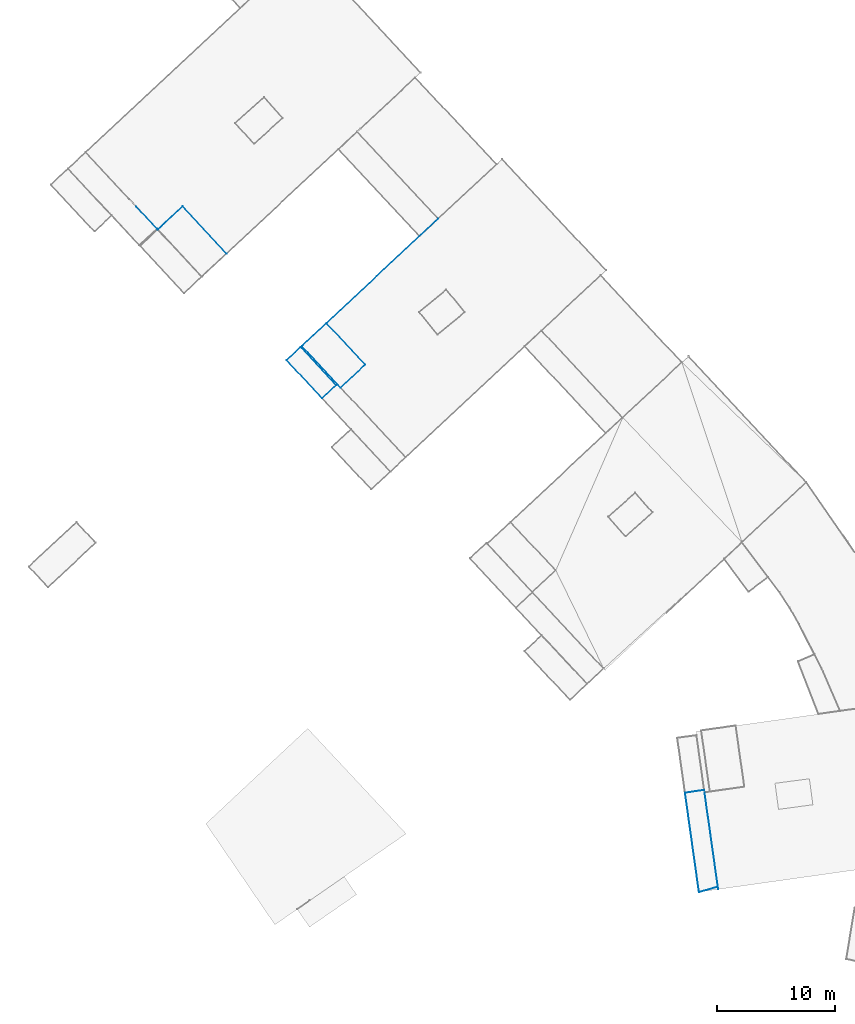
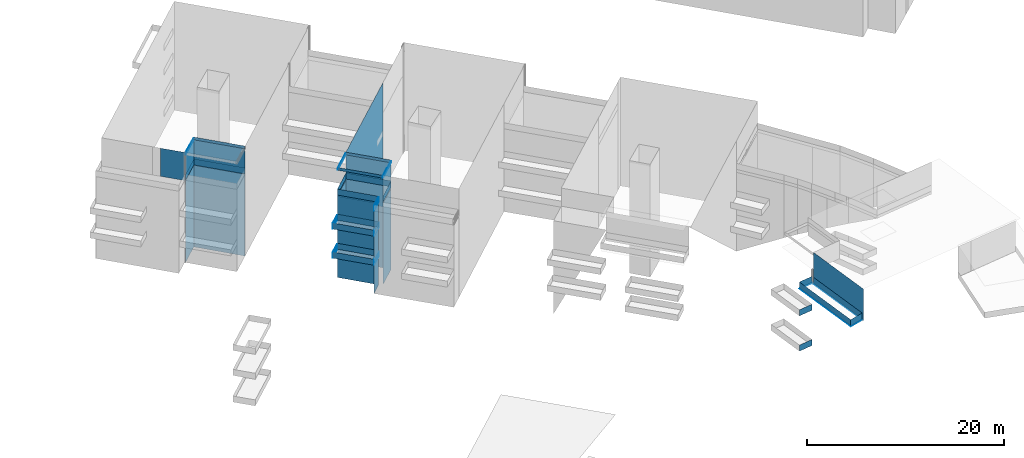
# Not in any storey, part 16 of 136: 75 walls.
"""IFC4 building model written with IfcOpenShell, lengths in metres."""

from ifc_helpers import new_model, entity, si_unit, converted_unit, origin, place, context, subcontext, project, spatial, face_set, surface_model, element, save


model = new_model("IFC4")

# Units and contexts
model_context = context("Model", 3, precision=1e-05, world=origin())
body_context = subcontext(model_context, "Body", "Model", "MODEL_VIEW")
ifc_project = project(units=[converted_unit("PLANEANGLEUNIT", "DEGREE", entity("IfcRatioMeasure", 0.0174532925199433), si_unit("PLANEANGLEUNIT", "RADIAN"), dimensions=[0, 0, 0, 0, 0, 0, 0]), si_unit("AREAUNIT", "SQUARE_METRE"), si_unit("LENGTHUNIT", "METRE")], contexts=[model_context])

# Site, building
site_placement = place(None, origin())
site = spatial("IfcSite", under=ifc_project, at=site_placement, Name="_site")
building_1_placement = place(site_placement, origin())
building_1 = spatial("IfcBuilding", under=site, at=building_1_placement, Name="_building")

# Walls
wall_1_placement = place(building_1_placement, origin())
element("IfcWall", 1, at=wall_1_placement, inside=building_1, Name="Wall", PredefinedType="NOTDEFINED", context=body_context, shape_type="SurfaceModel", body=[
    surface_model("IfcFaceBasedSurfaceModel", [(158.5, -56.03, 40.37), (156.88, -56.26, 40.37), (156.88, -56.26, 41.12), (158.5, -56.03, 41.12)], [face_set([[[0, 1, 2, 3]]])]),
])
wall_2_placement = place(building_1_placement, origin())
element("IfcWall", 2, at=wall_2_placement, inside=building_1, Name="Wall", PredefinedType="NOTDEFINED", context=body_context, shape_type="SurfaceModel", body=[
    surface_model("IfcFaceBasedSurfaceModel", [(158.5, -56.03, 44.74), (156.88, -56.26, 44.74), (156.88, -56.26, 45.49), (158.5, -56.03, 45.49)], [face_set([[[0, 1, 2, 3]]])]),
])
wall_3_placement = place(building_1_placement, origin())
element("IfcWall", 3, at=wall_3_placement, inside=building_1, Name="Wall", PredefinedType="NOTDEFINED", context=body_context, shape_type="SurfaceModel", body=[
    surface_model("IfcFaceBasedSurfaceModel", [(124.45, -18.64, 48.26), (126.62, -16.62, 48.26), (126.62, -16.62, 38.067), (124.45, -18.64, 38.059)], [face_set([[[0, 1, 2, 3]]])]),
])
wall_4_placement = place(building_1_placement, origin())
element("IfcWall", 4, at=wall_4_placement, inside=building_1, Name="Wall", PredefinedType="NOTDEFINED", context=body_context, shape_type="SurfaceModel", body=[
    surface_model("IfcFaceBasedSurfaceModel", [(127.44, -21.86, 48.26), (124.45, -18.64, 48.26), (124.45, -18.64, 38.059), (127.44, -21.86, 38.046)], [face_set([[[0, 1, 2, 3]]])]),
])
wall_5_placement = place(building_1_placement, origin())
element("IfcWall", 5, at=wall_5_placement, inside=building_1, Name="Wall", PredefinedType="NOTDEFINED", context=body_context, shape_type="SurfaceModel", body=[
    surface_model("IfcFaceBasedSurfaceModel", [(126.26, -22.96, 48.26), (127.44, -21.86, 48.26), (127.44, -21.86, 38.046), (126.26, -22.96, 38.037)], [face_set([[[0, 1, 2, 3]]])]),
])
wall_6_placement = place(building_1_placement, origin())
element("IfcWall", 6, at=wall_6_placement, inside=building_1, Name="Wall", PredefinedType="NOTDEFINED", context=body_context, shape_type="SurfaceModel", body=[
    surface_model("IfcFaceBasedSurfaceModel", [(124.45, -18.64, 48.11), (126.62, -16.62, 48.11), (126.62, -16.62, 38.067), (124.45, -18.64, 38.059)], [face_set([[[0, 1, 2, 3]]])]),
])
wall_7_placement = place(building_1_placement, origin())
element("IfcWall", 7, at=wall_7_placement, inside=building_1, Name="Wall", PredefinedType="NOTDEFINED", context=body_context, shape_type="SurfaceModel", body=[
    surface_model("IfcFaceBasedSurfaceModel", [(127.44, -21.86, 48.11), (124.45, -18.64, 48.11), (124.45, -18.64, 38.059), (127.44, -21.86, 38.046)], [face_set([[[0, 1, 2, 3]]])]),
])
wall_8_placement = place(building_1_placement, origin())
element("IfcWall", 8, at=wall_8_placement, inside=building_1, Name="Wall", PredefinedType="NOTDEFINED", context=body_context, shape_type="SurfaceModel", body=[
    surface_model("IfcFaceBasedSurfaceModel", [(126.26, -22.96, 48.11), (127.44, -21.86, 48.11), (127.44, -21.86, 38.046), (126.26, -22.96, 38.037)], [face_set([[[0, 1, 2, 3]]])]),
])
wall_9_placement = place(building_1_placement, origin())
element("IfcWall", 9, at=wall_9_placement, inside=building_1, Name="Wall", PredefinedType="NOTDEFINED", context=body_context, shape_type="SurfaceModel", body=[
    surface_model("IfcFaceBasedSurfaceModel", [(126.62, -16.62, 51.59), (136.06, -7.81, 51.59), (136.06, -7.81, 38.131), (126.62, -16.62, 38.067)], [face_set([[[0, 1, 2, 3]]])]),
])
wall_10_placement = place(building_1_placement, origin())
element("IfcWall", 10, at=wall_10_placement, inside=building_1, Name="Wall", PredefinedType="NOTDEFINED", context=body_context, shape_type="SurfaceModel", body=[
    surface_model("IfcFaceBasedSurfaceModel", [(156.88, -56.26, 48.2), (158.5, -56.03, 48.2), (158.5, -56.03, 48.95), (156.88, -56.26, 48.95)], [face_set([[[0, 1, 2, 3]]])]),
])
wall_11_placement = place(building_1_placement, origin())
element("IfcWall", 11, at=wall_11_placement, inside=building_1, Name="Wall", PredefinedType="NOTDEFINED", context=body_context, shape_type="SurfaceModel", body=[
    surface_model("IfcFaceBasedSurfaceModel", [(158.06, -64.64, 48.2), (156.88, -56.26, 48.2), (156.88, -56.26, 48.95), (158.06, -64.64, 48.95)], [face_set([[[0, 1, 2, 3]]])]),
])
wall_12_placement = place(building_1_placement, origin())
element("IfcWall", 12, at=wall_12_placement, inside=building_1, Name="Wall", PredefinedType="NOTDEFINED", context=body_context, shape_type="SurfaceModel", body=[
    surface_model("IfcFaceBasedSurfaceModel", [(156.88, -56.26, 48.2), (158.5, -56.03, 48.2), (158.5, -56.03, 48.95), (156.88, -56.26, 48.95)], [face_set([[[0, 1, 2, 3]]])]),
])
wall_13_placement = place(building_1_placement, origin())
element("IfcWall", 13, at=wall_13_placement, inside=building_1, Name="Wall", PredefinedType="NOTDEFINED", context=body_context, shape_type="SurfaceModel", body=[
    surface_model("IfcFaceBasedSurfaceModel", [(158.06, -64.64, 48.2), (156.88, -56.26, 48.2), (156.88, -56.26, 48.95), (158.06, -64.64, 48.95)], [face_set([[[0, 1, 2, 3]]])]),
])
wall_14_placement = place(building_1_placement, origin())
element("IfcWall", 14, at=wall_14_placement, inside=building_1, Name="Wall", PredefinedType="NOTDEFINED", context=body_context, shape_type="SurfaceModel", body=[
    surface_model("IfcFaceBasedSurfaceModel", [(123.26, -19.75, 41.54), (124.45, -18.64, 41.54), (124.45, -18.64, 42.29), (123.26, -19.75, 42.29)], [face_set([[[0, 1, 2, 3]]])]),
])
wall_15_placement = place(building_1_placement, origin())
element("IfcWall", 15, at=wall_15_placement, inside=building_1, Name="Wall", PredefinedType="NOTDEFINED", context=body_context, shape_type="SurfaceModel", body=[
    surface_model("IfcFaceBasedSurfaceModel", [(126.26, -22.96, 41.54), (123.26, -19.75, 41.54), (123.26, -19.75, 42.29), (126.26, -22.96, 42.29)], [face_set([[[0, 1, 2, 3]]])]),
])
wall_16_placement = place(building_1_placement, origin())
element("IfcWall", 16, at=wall_16_placement, inside=building_1, Name="Wall", PredefinedType="NOTDEFINED", context=body_context, shape_type="SurfaceModel", body=[
    surface_model("IfcFaceBasedSurfaceModel", [(123.26, -19.75, 41.54), (124.45, -18.64, 41.54), (124.45, -18.64, 42.29), (123.26, -19.75, 42.29)], [face_set([[[0, 1, 2, 3]]])]),
])
wall_17_placement = place(building_1_placement, origin())
element("IfcWall", 17, at=wall_17_placement, inside=building_1, Name="Wall", PredefinedType="NOTDEFINED", context=body_context, shape_type="SurfaceModel", body=[
    surface_model("IfcFaceBasedSurfaceModel", [(126.26, -22.96, 41.54), (123.26, -19.75, 41.54), (123.26, -19.75, 42.29), (126.26, -22.96, 42.29)], [face_set([[[0, 1, 2, 3]]])]),
])
wall_18_placement = place(building_1_placement, origin())
element("IfcWall", 18, at=wall_18_placement, inside=building_1, Name="Wall", PredefinedType="NOTDEFINED", context=body_context, shape_type="SurfaceModel", body=[
    surface_model("IfcFaceBasedSurfaceModel", [(127.44, -21.86, 41.54), (126.26, -22.96, 41.54), (126.26, -22.96, 42.29), (127.44, -21.86, 42.29)], [face_set([[[0, 1, 2, 3]]])]),
])
wall_19_placement = place(building_1_placement, origin())
element("IfcWall", 19, at=wall_19_placement, inside=building_1, Name="Wall", PredefinedType="NOTDEFINED", context=body_context, shape_type="SurfaceModel", body=[
    surface_model("IfcFaceBasedSurfaceModel", [(124.45, -18.64, 41.54), (127.44, -21.86, 41.54), (127.44, -21.86, 42.29), (124.45, -18.64, 42.29)], [face_set([[[0, 1, 2, 3]]])]),
])
wall_20_placement = place(building_1_placement, origin())
element("IfcWall", 20, at=wall_20_placement, inside=building_1, Name="Wall", PredefinedType="NOTDEFINED", context=body_context, shape_type="SurfaceModel", body=[
    surface_model("IfcFaceBasedSurfaceModel", [(124.55, -18.56, 51.59), (126.62, -16.62, 51.59), (126.62, -16.62, 51.24), (124.55, -18.56, 51.24)], [face_set([[[0, 1, 2, 3]]])]),
])
wall_21_placement = place(building_1_placement, origin())
element("IfcWall", 21, at=wall_21_placement, inside=building_1, Name="Wall", PredefinedType="NOTDEFINED", context=body_context, shape_type="SurfaceModel", body=[
    surface_model("IfcFaceBasedSurfaceModel", [(123.26, -19.75, 45.14), (124.45, -18.64, 45.14), (124.45, -18.64, 45.89), (123.26, -19.75, 45.89)], [face_set([[[0, 1, 2, 3]]])]),
])
wall_22_placement = place(building_1_placement, origin())
element("IfcWall", 22, at=wall_22_placement, inside=building_1, Name="Wall", PredefinedType="NOTDEFINED", context=body_context, shape_type="SurfaceModel", body=[
    surface_model("IfcFaceBasedSurfaceModel", [(126.26, -22.96, 45.14), (123.26, -19.75, 45.14), (123.26, -19.75, 45.89), (126.26, -22.96, 45.89)], [face_set([[[0, 1, 2, 3]]])]),
])
wall_23_placement = place(building_1_placement, origin())
element("IfcWall", 23, at=wall_23_placement, inside=building_1, Name="Wall", PredefinedType="NOTDEFINED", context=body_context, shape_type="SurfaceModel", body=[
    surface_model("IfcFaceBasedSurfaceModel", [(123.26, -19.75, 45.14), (124.45, -18.64, 45.14), (124.45, -18.64, 45.89), (123.26, -19.75, 45.89)], [face_set([[[0, 1, 2, 3]]])]),
])
wall_24_placement = place(building_1_placement, origin())
element("IfcWall", 24, at=wall_24_placement, inside=building_1, Name="Wall", PredefinedType="NOTDEFINED", context=body_context, shape_type="SurfaceModel", body=[
    surface_model("IfcFaceBasedSurfaceModel", [(126.26, -22.96, 45.14), (123.26, -19.75, 45.14), (123.26, -19.75, 45.89), (126.26, -22.96, 45.89)], [face_set([[[0, 1, 2, 3]]])]),
])
wall_25_placement = place(building_1_placement, origin())
element("IfcWall", 25, at=wall_25_placement, inside=building_1, Name="Wall", PredefinedType="NOTDEFINED", context=body_context, shape_type="SurfaceModel", body=[
    surface_model("IfcFaceBasedSurfaceModel", [(127.44, -21.86, 45.14), (126.26, -22.96, 45.14), (126.26, -22.96, 45.89), (127.44, -21.86, 45.89)], [face_set([[[0, 1, 2, 3]]])]),
])
wall_26_placement = place(building_1_placement, origin())
element("IfcWall", 26, at=wall_26_placement, inside=building_1, Name="Wall", PredefinedType="NOTDEFINED", context=body_context, shape_type="SurfaceModel", body=[
    surface_model("IfcFaceBasedSurfaceModel", [(124.45, -18.64, 45.14), (127.44, -21.86, 45.14), (127.44, -21.86, 45.89), (124.45, -18.64, 45.89)], [face_set([[[0, 1, 2, 3]]])]),
])
wall_27_placement = place(building_1_placement, origin())
element("IfcWall", 27, at=wall_27_placement, inside=building_1, Name="Wall", PredefinedType="NOTDEFINED", context=body_context, shape_type="SurfaceModel", body=[
    surface_model("IfcFaceBasedSurfaceModel", [(124.45, -18.64, 48.26), (126.62, -16.62, 48.26), (126.62, -16.62, 49.01), (124.45, -18.64, 49.01)], [face_set([[[0, 1, 2, 3]]])]),
])
wall_28_placement = place(building_1_placement, origin())
element("IfcWall", 28, at=wall_28_placement, inside=building_1, Name="Wall", PredefinedType="NOTDEFINED", context=body_context, shape_type="SurfaceModel", body=[
    surface_model("IfcFaceBasedSurfaceModel", [(127.44, -21.86, 48.26), (124.45, -18.64, 48.26), (124.45, -18.64, 49.01), (127.44, -21.86, 49.01)], [face_set([[[0, 1, 2, 3]]])]),
])
wall_29_placement = place(building_1_placement, origin())
element("IfcWall", 29, at=wall_29_placement, inside=building_1, Name="Wall", PredefinedType="NOTDEFINED", context=body_context, shape_type="SurfaceModel", body=[
    surface_model("IfcFaceBasedSurfaceModel", [(126.26, -22.96, 48.26), (127.44, -21.86, 48.26), (127.44, -21.86, 49.01), (126.26, -22.96, 49.01)], [face_set([[[0, 1, 2, 3]]])]),
])
wall_30_placement = place(building_1_placement, origin())
element("IfcWall", 30, at=wall_30_placement, inside=building_1, Name="Wall", PredefinedType="NOTDEFINED", context=body_context, shape_type="SurfaceModel", body=[
    surface_model("IfcFaceBasedSurfaceModel", [(124.45, -18.64, 48.26), (126.62, -16.62, 48.26), (126.62, -16.62, 49.01), (124.45, -18.64, 49.01)], [face_set([[[0, 1, 2, 3]]])]),
])
wall_31_placement = place(building_1_placement, origin())
element("IfcWall", 31, at=wall_31_placement, inside=building_1, Name="Wall", PredefinedType="NOTDEFINED", context=body_context, shape_type="SurfaceModel", body=[
    surface_model("IfcFaceBasedSurfaceModel", [(127.44, -21.86, 48.26), (124.45, -18.64, 48.26), (124.45, -18.64, 49.01), (127.44, -21.86, 49.01)], [face_set([[[0, 1, 2, 3]]])]),
])
wall_32_placement = place(building_1_placement, origin())
element("IfcWall", 32, at=wall_32_placement, inside=building_1, Name="Wall", PredefinedType="NOTDEFINED", context=body_context, shape_type="SurfaceModel", body=[
    surface_model("IfcFaceBasedSurfaceModel", [(126.26, -22.96, 48.26), (127.44, -21.86, 48.26), (127.44, -21.86, 49.01), (126.26, -22.96, 49.01)], [face_set([[[0, 1, 2, 3]]])]),
])
wall_33_placement = place(building_1_placement, origin())
element("IfcWall", 33, at=wall_33_placement, inside=building_1, Name="Wall", PredefinedType="NOTDEFINED", context=body_context, shape_type="SurfaceModel", body=[
    surface_model("IfcFaceBasedSurfaceModel", [(158.06, -64.64, 48.2), (156.88, -56.26, 48.2), (156.88, -56.26, 48.1), (158.06, -64.64, 48.1)], [face_set([[[0, 1, 2, 3]]])]),
])
wall_34_placement = place(building_1_placement, origin())
element("IfcWall", 34, at=wall_34_placement, inside=building_1, Name="Wall", PredefinedType="NOTDEFINED", context=body_context, shape_type="SurfaceModel", body=[
    surface_model("IfcFaceBasedSurfaceModel", [(156.88, -56.26, 48.2), (158.5, -56.03, 48.2), (158.5, -56.03, 48.1), (156.88, -56.26, 48.1)], [face_set([[[0, 1, 2, 3]]])]),
])

# Building
building_2_placement = place(site_placement, origin())
building_2 = spatial("IfcBuilding", under=site, at=building_2_placement, Name="_building")

# Walls
wall_35_placement = place(building_2_placement, origin())
element("IfcWall", 35, at=wall_35_placement, inside=building_2, Name="Wall", PredefinedType="NOTDEFINED", context=body_context, shape_type="SurfaceModel", body=[
    surface_model("IfcFaceBasedSurfaceModel", [(126.62, -16.62, 48.26), (129.9, -20.13, 48.26), (129.9, -20.13, 38.064), (126.62, -16.62, 38.067)], [face_set([[[0, 1, 2, 3]]])]),
])
wall_36_placement = place(building_2_placement, origin())
element("IfcWall", 36, at=wall_36_placement, inside=building_2, Name="Wall", PredefinedType="NOTDEFINED", context=body_context, shape_type="SurfaceModel", body=[
    surface_model("IfcFaceBasedSurfaceModel", [(129.9, -20.13, 51.59), (126.62, -16.62, 51.59), (126.62, -16.62, 48.11), (129.9, -20.13, 48.11)], [face_set([[[0, 1, 2, 3]]])]),
])
wall_37_placement = place(building_2_placement, origin())
element("IfcWall", 37, at=wall_37_placement, inside=building_2, Name="Wall", PredefinedType="NOTDEFINED", context=body_context, shape_type="SurfaceModel", body=[
    surface_model("IfcFaceBasedSurfaceModel", [(127.82, -22.06, 51.59), (129.9, -20.13, 51.59), (129.9, -20.13, 48.11), (127.82, -22.06, 48.11)], [face_set([[[0, 1, 2, 3]]])]),
])
wall_38_placement = place(building_2_placement, origin())
element("IfcWall", 38, at=wall_38_placement, inside=building_2, Name="Wall", PredefinedType="NOTDEFINED", context=body_context, shape_type="SurfaceModel", body=[
    surface_model("IfcFaceBasedSurfaceModel", [(127.44, -21.86, 41.54), (126.26, -22.96, 41.54), (126.26, -22.96, 42.29), (127.44, -21.86, 42.29)], [face_set([[[0, 1, 2, 3]]])]),
])
wall_39_placement = place(building_2_placement, origin())
element("IfcWall", 39, at=wall_39_placement, inside=building_2, Name="Wall", PredefinedType="NOTDEFINED", context=body_context, shape_type="SurfaceModel", body=[
    surface_model("IfcFaceBasedSurfaceModel", [(124.45, -18.64, 41.54), (127.44, -21.86, 41.54), (127.44, -21.86, 42.29), (124.45, -18.64, 42.29)], [face_set([[[0, 1, 2, 3]]])]),
])
wall_40_placement = place(building_2_placement, origin())
element("IfcWall", 40, at=wall_40_placement, inside=building_2, Name="Wall", PredefinedType="NOTDEFINED", context=body_context, shape_type="SurfaceModel", body=[
    surface_model("IfcFaceBasedSurfaceModel", [(127.82, -22.06, 51.59), (124.55, -18.56, 51.59), (124.55, -18.56, 51.24), (127.82, -22.06, 51.24)], [face_set([[[0, 1, 2, 3]]])]),
])
wall_41_placement = place(building_2_placement, origin())
element("IfcWall", 41, at=wall_41_placement, inside=building_2, Name="Wall", PredefinedType="NOTDEFINED", context=body_context, shape_type="SurfaceModel", body=[
    surface_model("IfcFaceBasedSurfaceModel", [(129.9, -20.13, 51.59), (127.82, -22.06, 51.59), (127.82, -22.06, 51.24), (129.9, -20.13, 51.24)], [face_set([[[0, 1, 2, 3]]])]),
])
wall_42_placement = place(building_2_placement, origin())
element("IfcWall", 42, at=wall_42_placement, inside=building_2, Name="Wall", PredefinedType="NOTDEFINED", context=body_context, shape_type="SurfaceModel", body=[
    surface_model("IfcFaceBasedSurfaceModel", [(126.62, -16.62, 51.59), (129.9, -20.13, 51.59), (129.9, -20.13, 51.24), (126.62, -16.62, 51.24)], [face_set([[[0, 1, 2, 3]]])]),
])
wall_43_placement = place(building_2_placement, origin())
element("IfcWall", 43, at=wall_43_placement, inside=building_2, Name="Wall", PredefinedType="NOTDEFINED", context=body_context, shape_type="SurfaceModel", body=[
    surface_model("IfcFaceBasedSurfaceModel", [(124.55, -18.56, 51.59), (126.62, -16.62, 51.59), (126.62, -16.62, 51.24), (124.55, -18.56, 51.24)], [face_set([[[0, 1, 2, 3]]])]),
])
wall_44_placement = place(building_2_placement, origin())
element("IfcWall", 44, at=wall_44_placement, inside=building_2, Name="Wall", PredefinedType="NOTDEFINED", context=body_context, shape_type="SurfaceModel", body=[
    surface_model("IfcFaceBasedSurfaceModel", [(127.82, -22.06, 51.59), (124.55, -18.56, 51.59), (124.55, -18.56, 51.24), (127.82, -22.06, 51.24)], [face_set([[[0, 1, 2, 3]]])]),
])
wall_45_placement = place(building_2_placement, origin())
element("IfcWall", 45, at=wall_45_placement, inside=building_2, Name="Wall", PredefinedType="NOTDEFINED", context=body_context, shape_type="SurfaceModel", body=[
    surface_model("IfcFaceBasedSurfaceModel", [(127.44, -21.86, 45.14), (126.26, -22.96, 45.14), (126.26, -22.96, 45.89), (127.44, -21.86, 45.89)], [face_set([[[0, 1, 2, 3]]])]),
])
wall_46_placement = place(building_2_placement, origin())
element("IfcWall", 46, at=wall_46_placement, inside=building_2, Name="Wall", PredefinedType="NOTDEFINED", context=body_context, shape_type="SurfaceModel", body=[
    surface_model("IfcFaceBasedSurfaceModel", [(124.45, -18.64, 45.14), (127.44, -21.86, 45.14), (127.44, -21.86, 45.89), (124.45, -18.64, 45.89)], [face_set([[[0, 1, 2, 3]]])]),
])
wall_47_placement = place(building_2_placement, origin())
element("IfcWall", 47, at=wall_47_placement, inside=building_2, Name="Wall", PredefinedType="NOTDEFINED", context=body_context, shape_type="SurfaceModel", body=[
    surface_model("IfcFaceBasedSurfaceModel", [(129.9, -20.13, 51.59), (127.82, -22.06, 51.59), (127.82, -22.06, 51.24), (129.9, -20.13, 51.24)], [face_set([[[0, 1, 2, 3]]])]),
])
wall_48_placement = place(building_2_placement, origin())
element("IfcWall", 48, at=wall_48_placement, inside=building_2, Name="Wall", PredefinedType="NOTDEFINED", context=body_context, shape_type="SurfaceModel", body=[
    surface_model("IfcFaceBasedSurfaceModel", [(126.62, -16.62, 51.59), (129.9, -20.13, 51.59), (129.9, -20.13, 51.24), (126.62, -16.62, 51.24)], [face_set([[[0, 1, 2, 3]]])]),
])
wall_49_placement = place(building_2_placement, origin())
element("IfcWall", 49, at=wall_49_placement, inside=building_2, Name="Wall", PredefinedType="NOTDEFINED", context=body_context, shape_type="SurfaceModel", body=[
    surface_model("IfcFaceBasedSurfaceModel", [(129.9, -20.13, 48.26), (127.82, -22.06, 48.26), (127.82, -22.06, 38.048), (129.9, -20.13, 38.064)], [face_set([[[0, 1, 2, 3]]])]),
])
wall_50_placement = place(building_2_placement, origin())
element("IfcWall", 50, at=wall_50_placement, inside=building_2, Name="Wall", PredefinedType="NOTDEFINED", context=body_context, shape_type="SurfaceModel", body=[
    surface_model("IfcFaceBasedSurfaceModel", [(129.9, -20.13, 48.26), (127.82, -22.06, 48.26), (127.82, -22.06, 49.01), (129.9, -20.13, 49.01)], [face_set([[[0, 1, 2, 3]]])]),
])
wall_51_placement = place(building_2_placement, origin())
element("IfcWall", 51, at=wall_51_placement, inside=building_2, Name="Wall", PredefinedType="NOTDEFINED", context=body_context, shape_type="SurfaceModel", body=[
    surface_model("IfcFaceBasedSurfaceModel", [(126.62, -16.62, 48.26), (129.9, -20.13, 48.26), (129.9, -20.13, 49.01), (126.62, -16.62, 49.01)], [face_set([[[0, 1, 2, 3]]])]),
])
wall_52_placement = place(building_2_placement, origin())
element("IfcWall", 52, at=wall_52_placement, inside=building_2, Name="Wall", PredefinedType="NOTDEFINED", context=body_context, shape_type="SurfaceModel", body=[
    surface_model("IfcFaceBasedSurfaceModel", [(129.9, -20.13, 48.26), (127.82, -22.06, 48.26), (127.82, -22.06, 49.01), (129.9, -20.13, 49.01)], [face_set([[[0, 1, 2, 3]]])]),
])
wall_53_placement = place(building_2_placement, origin())
element("IfcWall", 53, at=wall_53_placement, inside=building_2, Name="Wall", PredefinedType="NOTDEFINED", context=body_context, shape_type="SurfaceModel", body=[
    surface_model("IfcFaceBasedSurfaceModel", [(126.62, -16.62, 48.26), (129.9, -20.13, 48.26), (129.9, -20.13, 49.01), (126.62, -16.62, 49.01)], [face_set([[[0, 1, 2, 3]]])]),
])

# Building
building_3_placement = place(site_placement, origin())
building_3 = spatial("IfcBuilding", under=site, at=building_3_placement, Name="_building")

# Walls
wall_54_placement = place(building_3_placement, origin())
element("IfcWall", 54, at=wall_54_placement, inside=building_3, Name="Wall", PredefinedType="NOTDEFINED", context=body_context, shape_type="SurfaceModel", body=[
    surface_model("IfcFaceBasedSurfaceModel", [(112.38, -8.729, 48.29), (114.48, -6.77, 48.29), (114.48, -6.77, 49.04), (112.38, -8.729, 49.04)], [face_set([[[0, 1, 2, 3]]])]),
])
wall_55_placement = place(building_3_placement, origin())
element("IfcWall", 55, at=wall_55_placement, inside=building_3, Name="Wall", PredefinedType="NOTDEFINED", context=body_context, shape_type="SurfaceModel", body=[
    surface_model("IfcFaceBasedSurfaceModel", [(114.48, -6.77, 48.29), (118.19, -10.75, 48.29), (118.19, -10.75, 49.04), (114.48, -6.77, 49.04)], [face_set([[[0, 1, 2, 3]]])]),
])
wall_56_placement = place(building_3_placement, origin())
element("IfcWall", 56, at=wall_56_placement, inside=building_3, Name="Wall", PredefinedType="NOTDEFINED", context=body_context, shape_type="SurfaceModel", body=[
    surface_model("IfcFaceBasedSurfaceModel", [(112.38, -8.729, 48.29), (114.48, -6.77, 48.29), (114.48, -6.77, 49.04), (112.38, -8.729, 49.04)], [face_set([[[0, 1, 2, 3]]])]),
])
wall_57_placement = place(building_3_placement, origin())
element("IfcWall", 57, at=wall_57_placement, inside=building_3, Name="Wall", PredefinedType="NOTDEFINED", context=body_context, shape_type="SurfaceModel", body=[
    surface_model("IfcFaceBasedSurfaceModel", [(114.48, -6.77, 48.29), (118.19, -10.75, 48.29), (118.19, -10.75, 49.04), (114.48, -6.77, 49.04)], [face_set([[[0, 1, 2, 3]]])]),
])
wall_58_placement = place(building_3_placement, origin())
element("IfcWall", 58, at=wall_58_placement, inside=building_3, Name="Wall", PredefinedType="NOTDEFINED", context=body_context, shape_type="SurfaceModel", body=[
    surface_model("IfcFaceBasedSurfaceModel", [(114.48, -6.77, 51.74), (112.38, -8.729, 51.74), (112.38, -8.729, 48.25), (114.48, -6.77, 48.25)], [face_set([[[0, 1, 2, 3]]])]),
])
wall_59_placement = place(building_3_placement, origin())
element("IfcWall", 59, at=wall_59_placement, inside=building_3, Name="Wall", PredefinedType="NOTDEFINED", context=body_context, shape_type="SurfaceModel", body=[
    surface_model("IfcFaceBasedSurfaceModel", [(118.19, -10.75, 51.74), (114.48, -6.77, 51.74), (114.48, -6.77, 48.25), (118.19, -10.75, 48.25)], [face_set([[[0, 1, 2, 3]]])]),
])
wall_60_placement = place(building_3_placement, origin())
element("IfcWall", 60, at=wall_60_placement, inside=building_3, Name="Wall", PredefinedType="NOTDEFINED", context=body_context, shape_type="SurfaceModel", body=[
    surface_model("IfcFaceBasedSurfaceModel", [(112.32, -8.66, 51.74), (110.57, -6.79, 51.74), (110.57, -6.79, 48.25), (112.32, -8.66, 48.25)], [face_set([[[0, 1, 2, 3]]])]),
])
wall_61_placement = place(building_3_placement, origin())
element("IfcWall", 61, at=wall_61_placement, inside=building_3, Name="Wall", PredefinedType="NOTDEFINED", context=body_context, shape_type="SurfaceModel", body=[
    surface_model("IfcFaceBasedSurfaceModel", [(112.38, -8.729, 48.29), (114.48, -6.77, 48.29), (114.48, -6.77, 38.127), (112.38, -8.729, 38.12)], [face_set([[[0, 1, 2, 3]]])]),
])
wall_62_placement = place(building_3_placement, origin())
element("IfcWall", 62, at=wall_62_placement, inside=building_3, Name="Wall", PredefinedType="NOTDEFINED", context=body_context, shape_type="SurfaceModel", body=[
    surface_model("IfcFaceBasedSurfaceModel", [(112.4, -8.71, 51.74), (114.48, -6.77, 51.74), (114.48, -6.77, 51.39), (112.4, -8.71, 51.39)], [face_set([[[0, 1, 2, 3]]])]),
])
wall_63_placement = place(building_3_placement, origin())
element("IfcWall", 63, at=wall_63_placement, inside=building_3, Name="Wall", PredefinedType="NOTDEFINED", context=body_context, shape_type="SurfaceModel", body=[
    surface_model("IfcFaceBasedSurfaceModel", [(114.48, -6.77, 51.74), (118.19, -10.75, 51.74), (118.19, -10.75, 51.39), (114.48, -6.77, 51.39)], [face_set([[[0, 1, 2, 3]]])]),
])
wall_64_placement = place(building_3_placement, origin())
element("IfcWall", 64, at=wall_64_placement, inside=building_3, Name="Wall", PredefinedType="NOTDEFINED", context=body_context, shape_type="SurfaceModel", body=[
    surface_model("IfcFaceBasedSurfaceModel", [(112.4, -8.71, 51.74), (114.48, -6.77, 51.74), (114.48, -6.77, 51.39), (112.4, -8.71, 51.39)], [face_set([[[0, 1, 2, 3]]])]),
])
wall_65_placement = place(building_3_placement, origin())
element("IfcWall", 65, at=wall_65_placement, inside=building_3, Name="Wall", PredefinedType="NOTDEFINED", context=body_context, shape_type="SurfaceModel", body=[
    surface_model("IfcFaceBasedSurfaceModel", [(114.48, -6.77, 51.74), (118.19, -10.75, 51.74), (118.19, -10.75, 51.39), (114.48, -6.77, 51.39)], [face_set([[[0, 1, 2, 3]]])]),
])
wall_66_placement = place(building_3_placement, origin())
element("IfcWall", 66, at=wall_66_placement, inside=building_3, Name="Wall", PredefinedType="NOTDEFINED", context=body_context, shape_type="SurfaceModel", body=[
    surface_model("IfcFaceBasedSurfaceModel", [(114.48, -6.77, 48.29), (118.19, -10.75, 48.29), (118.19, -10.75, 38.104), (114.48, -6.77, 38.127)], [face_set([[[0, 1, 2, 3]]])]),
])

# Building
building_4_placement = place(site_placement, origin())
building_4 = spatial("IfcBuilding", under=site, at=building_4_placement, Name="_building")

# Walls
wall_67_placement = place(building_4_placement, origin())
element("IfcWall", 67, at=wall_67_placement, inside=building_4, Name="Wall", PredefinedType="NOTDEFINED", context=body_context, shape_type="SurfaceModel", body=[
    surface_model("IfcFaceBasedSurfaceModel", [(158.5, -56.03, 40.37), (156.88, -56.26, 40.37), (156.88, -56.26, 41.12), (158.5, -56.03, 41.12)], [face_set([[[0, 1, 2, 3]]])]),
])
wall_68_placement = place(building_4_placement, origin())
element("IfcWall", 68, at=wall_68_placement, inside=building_4, Name="Wall", PredefinedType="NOTDEFINED", context=body_context, shape_type="SurfaceModel", body=[
    surface_model("IfcFaceBasedSurfaceModel", [(158.5, -56.03, 44.74), (156.88, -56.26, 44.74), (156.88, -56.26, 45.49), (158.5, -56.03, 45.49)], [face_set([[[0, 1, 2, 3]]])]),
])
wall_69_placement = place(building_4_placement, origin())
element("IfcWall", 69, at=wall_69_placement, inside=building_4, Name="Wall", PredefinedType="NOTDEFINED", context=body_context, shape_type="SurfaceModel", body=[
    surface_model("IfcFaceBasedSurfaceModel", [(158.53, -56.24, 48.2), (159.65, -64.2, 48.2), (159.65, -64.2, 48.1), (158.53, -56.24, 48.1)], [face_set([[[0, 1, 2, 3]]])]),
])
wall_70_placement = place(building_4_placement, origin())
element("IfcWall", 70, at=wall_70_placement, inside=building_4, Name="Wall", PredefinedType="NOTDEFINED", context=body_context, shape_type="SurfaceModel", body=[
    surface_model("IfcFaceBasedSurfaceModel", [(159.68, -64.41, 52.04), (158.53, -56.24, 52.04), (158.53, -56.24, 48.1), (159.68, -64.41, 48.1)], [face_set([[[0, 1, 2, 3]]])]),
])
wall_71_placement = place(building_4_placement, origin())
element("IfcWall", 71, at=wall_71_placement, inside=building_4, Name="Wall", PredefinedType="NOTDEFINED", context=body_context, shape_type="SurfaceModel", body=[
    surface_model("IfcFaceBasedSurfaceModel", [(159.65, -64.2, 48.2), (158.06, -64.64, 48.2), (158.06, -64.64, 48.95), (159.65, -64.2, 48.95)], [face_set([[[0, 1, 2, 3]]])]),
])
wall_72_placement = place(building_4_placement, origin())
element("IfcWall", 72, at=wall_72_placement, inside=building_4, Name="Wall", PredefinedType="NOTDEFINED", context=body_context, shape_type="SurfaceModel", body=[
    surface_model("IfcFaceBasedSurfaceModel", [(158.53, -56.24, 48.2), (159.65, -64.2, 48.2), (159.65, -64.2, 48.95), (158.53, -56.24, 48.95)], [face_set([[[0, 1, 2, 3]]])]),
])
wall_73_placement = place(building_4_placement, origin())
element("IfcWall", 73, at=wall_73_placement, inside=building_4, Name="Wall", PredefinedType="NOTDEFINED", context=body_context, shape_type="SurfaceModel", body=[
    surface_model("IfcFaceBasedSurfaceModel", [(159.65, -64.2, 48.2), (158.06, -64.64, 48.2), (158.06, -64.64, 48.95), (159.65, -64.2, 48.95)], [face_set([[[0, 1, 2, 3]]])]),
])
wall_74_placement = place(building_4_placement, origin())
element("IfcWall", 74, at=wall_74_placement, inside=building_4, Name="Wall", PredefinedType="NOTDEFINED", context=body_context, shape_type="SurfaceModel", body=[
    surface_model("IfcFaceBasedSurfaceModel", [(158.53, -56.24, 48.2), (159.65, -64.2, 48.2), (159.65, -64.2, 48.95), (158.53, -56.24, 48.95)], [face_set([[[0, 1, 2, 3]]])]),
])
wall_75_placement = place(building_4_placement, origin())
element("IfcWall", 75, at=wall_75_placement, inside=building_4, Name="Wall", PredefinedType="NOTDEFINED", context=body_context, shape_type="SurfaceModel", body=[
    surface_model("IfcFaceBasedSurfaceModel", [(159.65, -64.2, 48.2), (158.06, -64.64, 48.2), (158.06, -64.64, 48.1), (159.65, -64.2, 48.1)], [face_set([[[0, 1, 2, 3]]])]),
])

save(model, "model.ifc")
